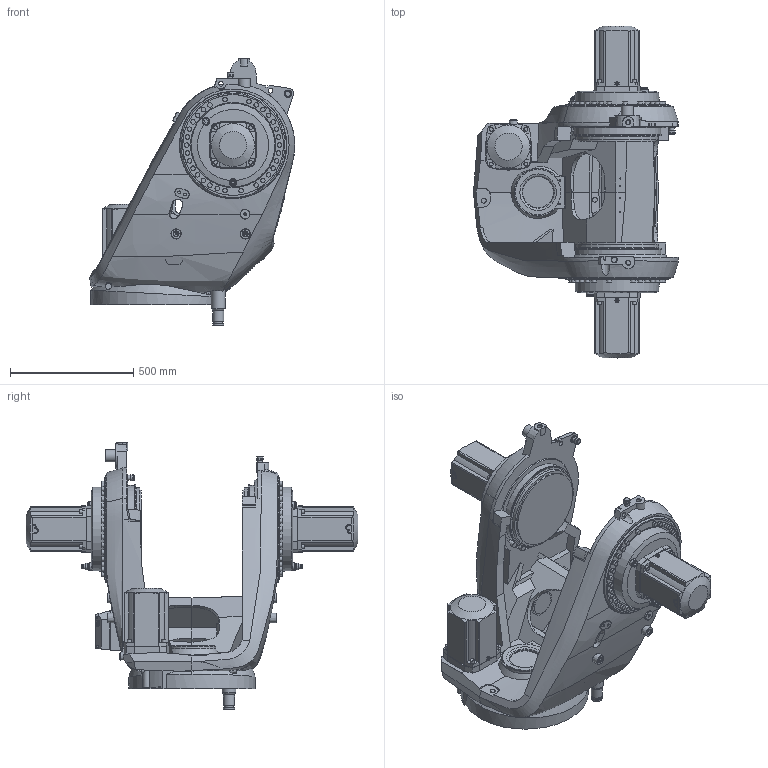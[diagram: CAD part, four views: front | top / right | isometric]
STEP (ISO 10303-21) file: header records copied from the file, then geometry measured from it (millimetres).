
FILE_DESCRIPTION (( 'STEP AP214' ), '1' );
FILE_NAME ('IRB77X0_All_OC_00_LINK01_CAD.step', '2026-01-27T14:53:47', ( '' ), ( '' ), 'SwSTEP 2.0', 'SolidWorks 2024', '' );
FILE_SCHEMA (( 'AUTOMOTIVE_DESIGN' ));
Length unit declared in the file: millimetre
Products named in the file (1): IRB77X0_All_OC_00_LINK01_CAD
Bounding box: 830.89 x 1345.2 x 1083.5 mm (x, y, z)
Volume: 142099371.4 mm3; surface area: 4433275.9 mm2
Topology: 1 solids, 2 shells, 1558 faces, 4097 edges, 2724 vertices
Faces by surface type: plane 792, cylinder 265, cone 229, bspline 196, torus 70, sphere 6
Full cylindrical faces by diameter (mm): 4.8 x1, 5 x6, 8.5 x6, 9.5 x4, 11 x4, 12 x1, 16.27 x12, 17 x7, 17.5 x2, 17.7 x2, 17.9 x1, 18 x1, 18.27 x63, 19 x2, 19.7 x4, 19.93 x1, 20 x10, 23 x2, 25 x1, 26.5 x2, 27 x3, 28.58 x2, 35 x1, 45 x2, 50 x1, 56 x1, 93.84 x1, 184 x1, 315 x2, 353 x2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
Entity records: 119440 total; most frequent: CARTESIAN_POINT 68300, ORIENTED_EDGE 7218, DIRECTION 6108, EDGE_CURVE 3609, VERTEX_POINT 2551, AXIS2_PLACEMENT_3D 2314, EDGE_LOOP 2080, FACE_OUTER_BOUND 1763
